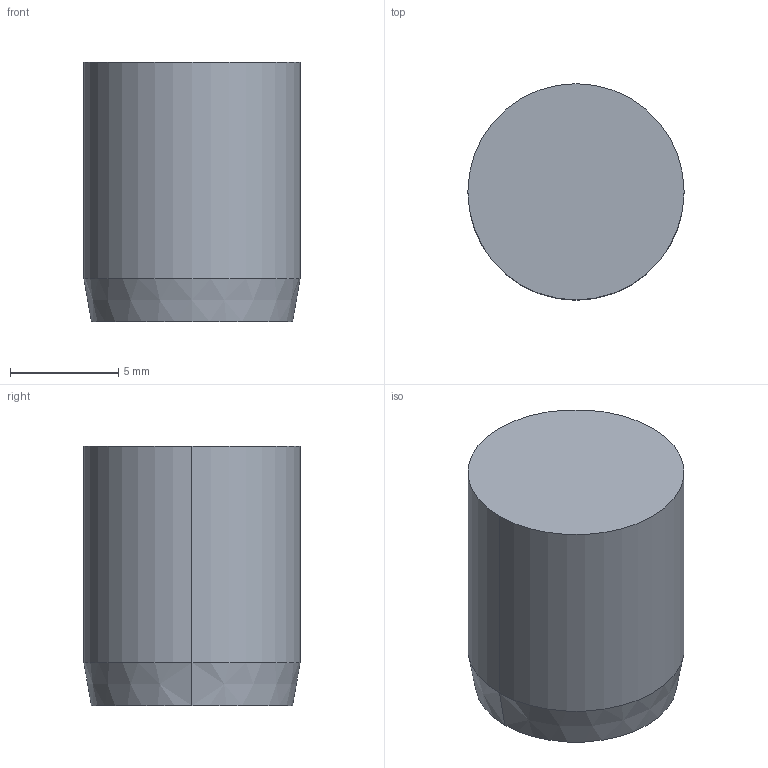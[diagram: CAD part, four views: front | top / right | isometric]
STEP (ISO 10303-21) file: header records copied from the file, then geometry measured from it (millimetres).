
FILE_DESCRIPTION (( 'STEP AP214' ), '1' );
FILE_NAME ('BruyRubio_VA-10.STEP', '2019-12-19T14:10:40', ( '' ), ( '' ), 'SwSTEP 2.0', 'SolidWorks 2017', '' );
FILE_SCHEMA (( 'AUTOMOTIVE_DESIGN' ));
Length unit declared in the file: millimetre
Products named in the file (1): BruyRubio_VA-10
Bounding box: 10 x 10 x 12 mm (x, y, z)
Volume: 919.1 mm3; surface area: 534.7 mm2
Topology: 1 solids, 1 shells, 9 faces, 16 edges, 10 vertices
Faces by surface type: cylinder 4, plane 3, cone 2
Entity records: 357 total; most frequent: DIRECTION 46, CARTESIAN_POINT 36, ORIENTED_EDGE 32, AXIS2_PLACEMENT_3D 20, EDGE_CURVE 16, UNCERTAINTY_MEASURE_WITH_UNIT 12, MECHANICAL_DESIGN_GEOMETRIC_PRESENTATION_REPRESENTATION 11, PRESENTATION_STYLE_ASSIGNMENT 11
